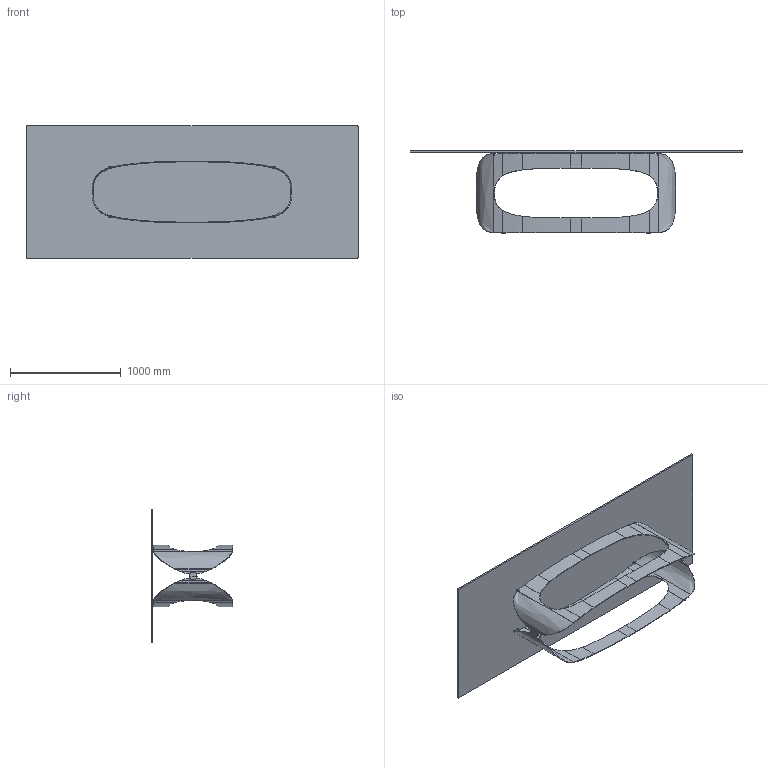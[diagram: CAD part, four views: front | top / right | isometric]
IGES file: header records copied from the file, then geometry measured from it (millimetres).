
Start section: SolidWorks IGES file using analytic representation for surfaces
Global section: file name: Y:\eforma\TECNICO\SOLIDWORKS\E-FORMA\1-TAVOLI\POLIFEMO\02 parts\PO24G_Polifemo_300x120_.IGS; native system: SolidWorks 2022; preprocessor: SolidWorks 2022; author: eforma.tech; date: 240806.162018; units: millimetre
Bounding box: 3000 x 739.97 x 1200 mm (x, y, z)
Volume: 63197766.3 mm3; surface area: 10530416.9 mm2
Topology: 24 solids, 24 shells, 576 faces, 1440 edges, 918 vertices
Faces by surface type: revolution 269, plane 155, bspline 152
